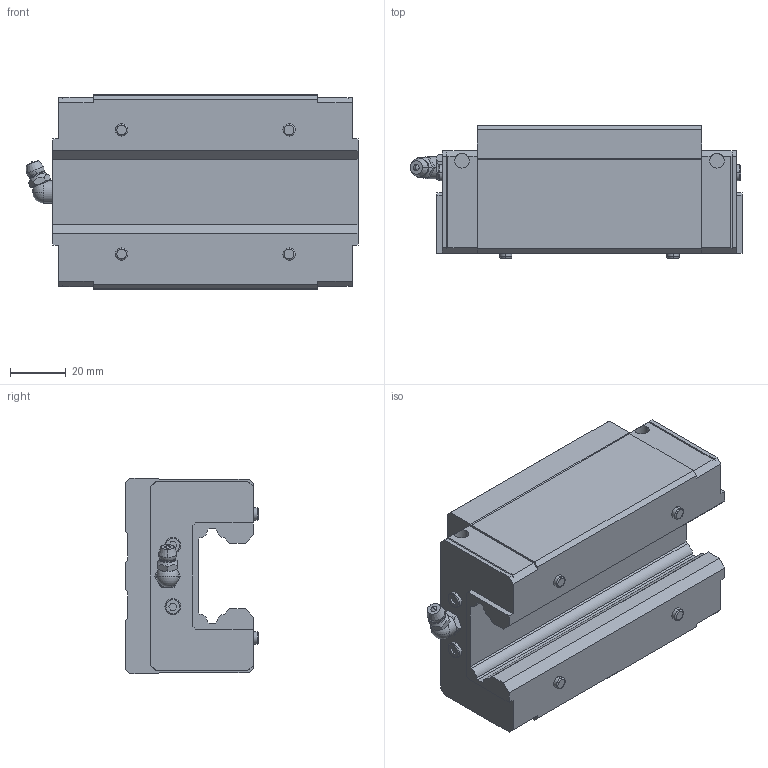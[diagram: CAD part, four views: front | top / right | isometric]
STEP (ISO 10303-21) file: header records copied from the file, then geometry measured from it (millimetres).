
FILE_DESCRIPTION (( 'STEP AP203' ), '1' );
FILE_NAME ('HSR35R_SW2020.STEP', '2020-06-02T18:47:02', ( '' ), ( '' ), 'SwSTEP 2.0', 'SolidWorks 2020', '' );
FILE_SCHEMA (( 'CONFIG_CONTROL_DESIGN' ));
Length unit declared in the file: millimetre
Products named in the file (1): HSR35R_SW2020
Bounding box: 119 x 47.5 x 70 mm (x, y, z)
Volume: 258399 mm3; surface area: 37070.5 mm2
Topology: 2 solids, 2 shells, 254 faces, 652 edges, 408 vertices
Faces by surface type: plane 146, cylinder 44, cone 36, torus 22, sphere 6
Entity records: 8022 total; most frequent: CARTESIAN_POINT 1771, DIRECTION 1298, ORIENTED_EDGE 1274, EDGE_CURVE 637, AXIS2_PLACEMENT_3D 436, VECTOR 426, LINE 426, VERTEX_POINT 408
